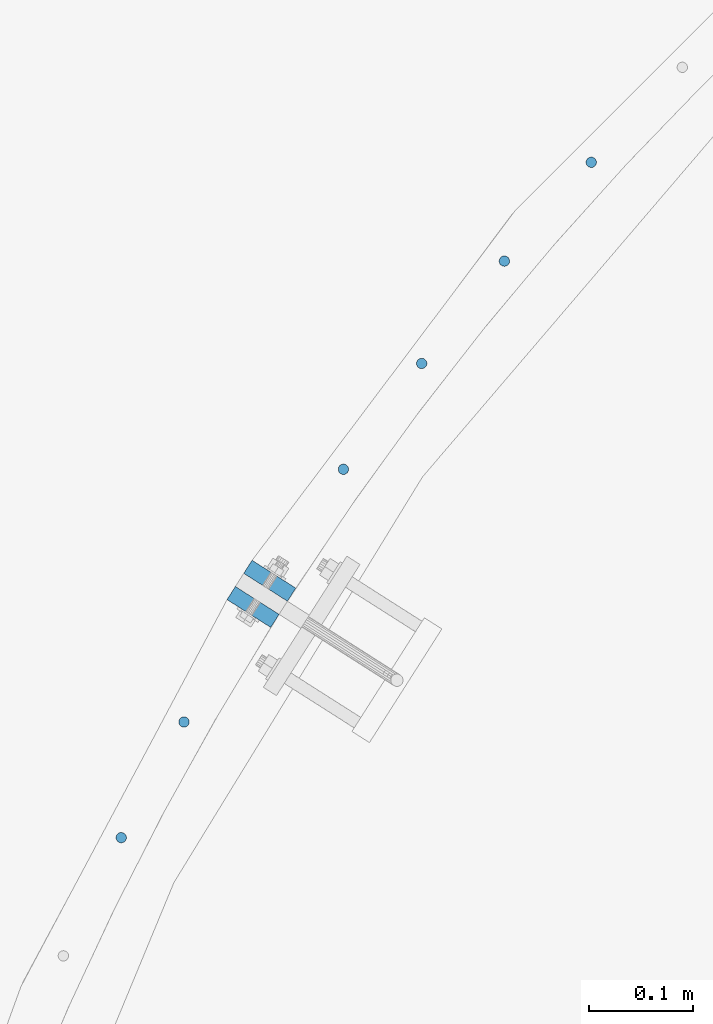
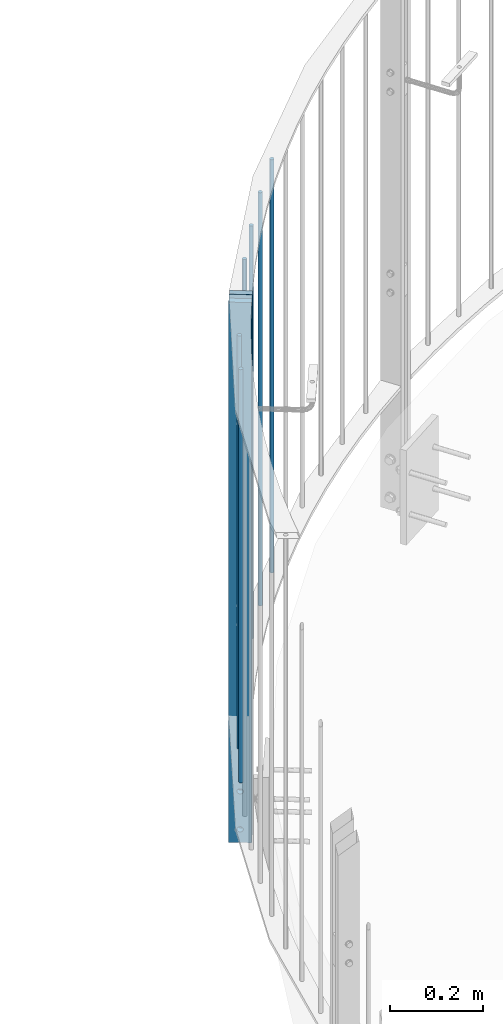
# One storey, part 64 of 296: 8 columns, 12 openings.
"""IFC2X3 building model written with IfcOpenShell, lengths in millimetres."""

from ifc_helpers import new_model, entity, si_unit, converted_unit, frame, frame_2d, origin, origin_with_axes, origin_2d, place, context, project, spatial, rectangle, circle, extrude, material, element, save


model = new_model("IFC2X3")

# Units and contexts
model_context = context("Model", 3, precision=1e-09, world=origin_with_axes())
ifc_project = project(units=[si_unit("LENGTHUNIT", "METRE", prefix="MILLI"), si_unit("AREAUNIT", "SQUARE_METRE"), si_unit("VOLUMEUNIT", "CUBIC_METRE"), converted_unit("PLANEANGLEUNIT", "DEGREE", entity("IfcPlaneAngleMeasure", 0.01745329), si_unit("PLANEANGLEUNIT", "RADIAN"), dimensions=[0, 0, 0, 0, 0, 0, 0])], contexts=[model_context])

# Site, building, storey
site_placement = place(None, origin_with_axes())
site = spatial("IfcSite", under=ifc_project, at=site_placement, Name="TZD-S?d | Treppenhausgel?nder", CompositionType="ELEMENT")
building_placement = place(site_placement, origin_with_axes())
building = spatial("IfcBuilding", under=site, at=building_placement, Name="Struktur 1", CompositionType="ELEMENT")
storey_placement = place(building_placement, origin_with_axes())
storey = spatial("IfcBuildingStorey", under=building, at=storey_placement, Name="Default Storey", CompositionType="ELEMENT", Elevation=0.0)

# Column, openings
ifc_material = material(Name="S235JR")
column_1_placement = place(None, frame((411.319071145, 1519.176700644, 11390.001), z_axis=(0.0, 0.0, -1.0), x_axis=(-0.537299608, -0.843391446, 0.0)))
column_1 = element("IfcColumn", 1, at=column_1_placement, inside=storey, material=ifc_material, Name="-", ObjectType="-", context=model_context, shape_type="SweptSolid", body=[
    extrude(rectangle(XDim=15.0, YDim=50.0, at=origin_2d()), origin(), (0.0, 0.0, -1.0), 1424.999),
])
opening_1_placement = place(column_1_placement, frame((-8.0, 0.0, -1129.999999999), z_axis=(1.0, 0.0, 0.0), x_axis=(0.0, -1.0, 0.0)))
element("IfcOpeningElement", 2, at=opening_1_placement, cuts=column_1, ObjectType="Opening", context=model_context, shape_type="SweptSolid", body=[
    extrude(circle(Radius=5.001, at=frame_2d((0.0, 25.0), x_axis=(1.0, 0.0))), origin(), (0.0, 0.0, 1.0), 16.0),
])
opening_2_placement = place(column_1_placement, frame((-8.0, 0.0, -1129.999999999), z_axis=(1.0, 0.0, 0.0), x_axis=(0.0, -1.0, 0.0)))
element("IfcOpeningElement", 3, at=opening_2_placement, cuts=column_1, ObjectType="Opening", context=model_context, shape_type="SweptSolid", body=[
    extrude(circle(Radius=5.001, at=frame_2d((0.0, -25.0), x_axis=(1.0, 0.0))), origin(), (0.0, 0.0, 1.0), 16.0),
])
opening_3_placement = place(column_1_placement, frame((-8.0, 0.0, -599.999999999), z_axis=(1.0, 0.0, 0.0), x_axis=(0.0, -1.0, 0.0)))
element("IfcOpeningElement", 4, at=opening_3_placement, cuts=column_1, ObjectType="Opening", context=model_context, shape_type="SweptSolid", body=[
    extrude(circle(Radius=5.001, at=frame_2d((0.0, 25.0), x_axis=(1.0, 0.0))), origin(), (0.0, 0.0, 1.0), 16.0),
])
opening_4_placement = place(column_1_placement, frame((-8.0, 0.0, -599.999999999), z_axis=(1.0, 0.0, 0.0), x_axis=(0.0, -1.0, 0.0)))
element("IfcOpeningElement", 5, at=opening_4_placement, cuts=column_1, ObjectType="Opening", context=model_context, shape_type="SweptSolid", body=[
    extrude(circle(Radius=5.001, at=frame_2d((0.0, -25.0), x_axis=(1.0, 0.0))), origin(), (0.0, 0.0, 1.0), 16.0),
])
opening_5_placement = place(column_1_placement, frame((-8.0, 0.0, -85.0), z_axis=(1.0, 0.0, 0.0), x_axis=(0.0, -1.0, 0.0)))
element("IfcOpeningElement", 6, at=opening_5_placement, cuts=column_1, ObjectType="Opening", context=model_context, shape_type="SweptSolid", body=[
    extrude(circle(Radius=7.001, at=frame_2d((0.0, 50.0), x_axis=(1.0, 0.0))), origin(), (0.0, 0.0, 1.0), 16.0),
])
opening_6_placement = place(column_1_placement, frame((-8.0, 0.0, -85.0), z_axis=(1.0, 0.0, 0.0), x_axis=(0.0, -1.0, 0.0)))
element("IfcOpeningElement", 7, at=opening_6_placement, cuts=column_1, ObjectType="Opening", context=model_context, shape_type="SweptSolid", body=[
    extrude(circle(Radius=7.001, at=frame_2d((0.0, -50.0), x_axis=(1.0, 0.0))), origin(), (0.0, 0.0, 1.0), 16.0),
])

column_2_placement = place(None, frame((395.200082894, 1493.87495727, 11390.001), z_axis=(0.0, 0.0, 1.0), x_axis=(0.537299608, 0.843391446, 0.0)))
column_2 = element("IfcColumn", 8, at=column_2_placement, inside=storey, material=ifc_material, Name="-", ObjectType="-", context=model_context, shape_type="SweptSolid", body=[
    extrude(rectangle(XDim=15.0, YDim=50.0, at=origin_2d()), origin(), (0.0, 0.0, 1.0), 1424.999),
])
opening_7_placement = place(column_2_placement, frame((8.0, 0.0, 85.0), z_axis=(-1.0, 0.0, 0.0), x_axis=(0.0, -1.0, 0.0)))
element("IfcOpeningElement", 9, at=opening_7_placement, cuts=column_2, ObjectType="Opening", context=model_context, shape_type="SweptSolid", body=[
    extrude(circle(Radius=7.001, at=frame_2d((0.0, 50.0), x_axis=(1.0, 0.0))), origin(), (0.0, 0.0, 1.0), 16.0),
])
opening_8_placement = place(column_2_placement, frame((8.0, 0.0, 85.0), z_axis=(-1.0, 0.0, 0.0), x_axis=(0.0, -1.0, 0.0)))
element("IfcOpeningElement", 10, at=opening_8_placement, cuts=column_2, ObjectType="Opening", context=model_context, shape_type="SweptSolid", body=[
    extrude(circle(Radius=7.001, at=frame_2d((0.0, -50.0), x_axis=(1.0, 0.0))), origin(), (0.0, 0.0, 1.0), 16.0),
])
opening_9_placement = place(column_2_placement, frame((8.0, 0.0, 1129.999999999), z_axis=(-1.0, 0.0, 0.0), x_axis=(0.0, -1.0, 0.0)))
element("IfcOpeningElement", 11, at=opening_9_placement, cuts=column_2, ObjectType="Opening", context=model_context, shape_type="SweptSolid", body=[
    extrude(circle(Radius=5.001, at=frame_2d((0.0, 25.0), x_axis=(1.0, 0.0))), origin(), (0.0, 0.0, 1.0), 16.0),
])
opening_10_placement = place(column_2_placement, frame((8.0, 0.0, 1129.999999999), z_axis=(-1.0, 0.0, 0.0), x_axis=(0.0, -1.0, 0.0)))
element("IfcOpeningElement", 12, at=opening_10_placement, cuts=column_2, ObjectType="Opening", context=model_context, shape_type="SweptSolid", body=[
    extrude(circle(Radius=5.001, at=frame_2d((0.0, -25.0), x_axis=(1.0, 0.0))), origin(), (0.0, 0.0, 1.0), 16.0),
])
opening_11_placement = place(column_2_placement, frame((8.0, 0.0, 599.999999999), z_axis=(-1.0, 0.0, 0.0), x_axis=(0.0, -1.0, 0.0)))
element("IfcOpeningElement", 13, at=opening_11_placement, cuts=column_2, ObjectType="Opening", context=model_context, shape_type="SweptSolid", body=[
    extrude(circle(Radius=5.001, at=frame_2d((0.0, 25.0), x_axis=(1.0, 0.0))), origin(), (0.0, 0.0, 1.0), 16.0),
])
opening_12_placement = place(column_2_placement, frame((8.0, 0.0, 599.999999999), z_axis=(-1.0, 0.0, 0.0), x_axis=(0.0, -1.0, 0.0)))
element("IfcOpeningElement", 14, at=opening_12_placement, cuts=column_2, ObjectType="Opening", context=model_context, shape_type="SweptSolid", body=[
    extrude(circle(Radius=5.001, at=frame_2d((0.0, -25.0), x_axis=(1.0, 0.0))), origin(), (0.0, 0.0, 1.0), 16.0),
])

# Columns
for number, where, z_axis, x_axis in (
    (15, (268.009652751, 1271.305762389, 11725.0), (0.0, 0.0, 1.0), (0.0, 1.0, 0.0)),
    (16, (328.618671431, 1382.861709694, 11725.0), (0.0, 0.0, 1.0), (0.0, 1.0, 0.0)),
    (17, (482.404589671, 1626.727106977, 11725.0), (0.0, 0.0, 1.0), (0.422618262, 0.906307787, 0.0)),
    (18, (557.894135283, 1728.803113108, 11725.0), (0.0, 0.0, 1.0), (0.422618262, 0.906307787, 0.0)),
    (19, (637.648869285, 1827.582488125, 11725.0), (0.0, 0.0, 1.0), (0.422618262, 0.906307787, 0.0)),
    (20, (721.525001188, 1922.887141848, 11725.0), (0.0, 0.0, 1.0), (0.422618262, 0.906307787, 0.0)),
):
    element("IfcColumn", number, at=place(None, frame(where, z_axis=z_axis, x_axis=x_axis)), inside=storey, material=ifc_material, Name="-", ObjectType="-", context=model_context, shape_type="SweptSolid", body=[
        extrude(circle(Radius=5.0, at=origin_2d()), origin(), (0.0, 0.0, 1.0), 1090.0),
    ])

save(model, "model.ifc")
